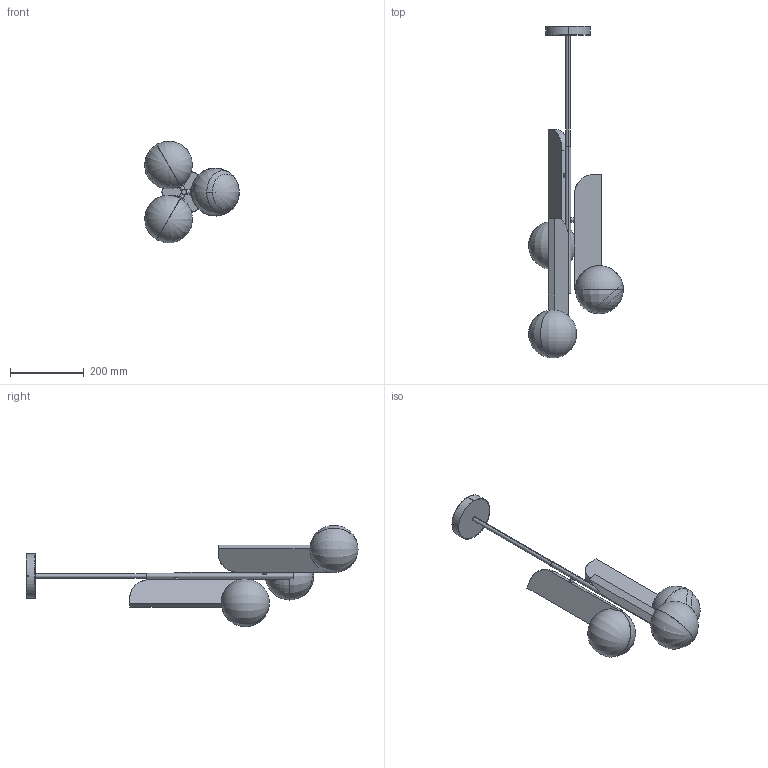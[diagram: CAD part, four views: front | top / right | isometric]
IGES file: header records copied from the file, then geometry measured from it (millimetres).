
Start section: SolidWorks IGES file using analytic representation for surfaces
Global section: file name: F:\燠隴矨\3D\2025-8\Bower Pendant lamp-D30CM.IGS,15; native system: HSolidWorks 2022; preprocessor: SolidWorks 2022; author: MyPC; date: 250805.155128; units: millimetre
Bounding box: 256.73 x 898.54 x 274.04 mm (x, y, z)
Surface area: 612340.3 mm2 (no closed solid volume)
Topology: 0 solids, 0 shells, 677 faces, 7033 edges, 7024 vertices
Faces by surface type: bspline 503, revolution 174
